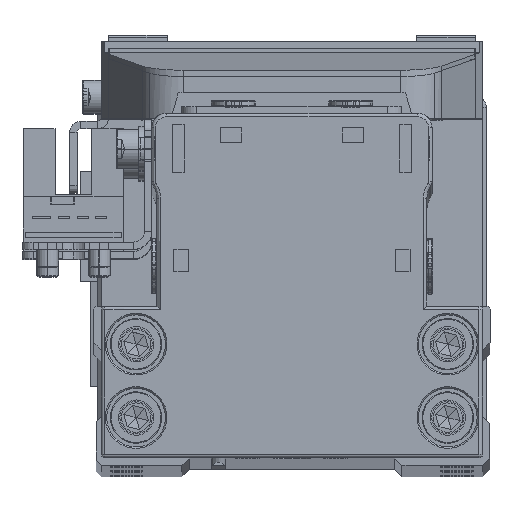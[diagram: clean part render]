
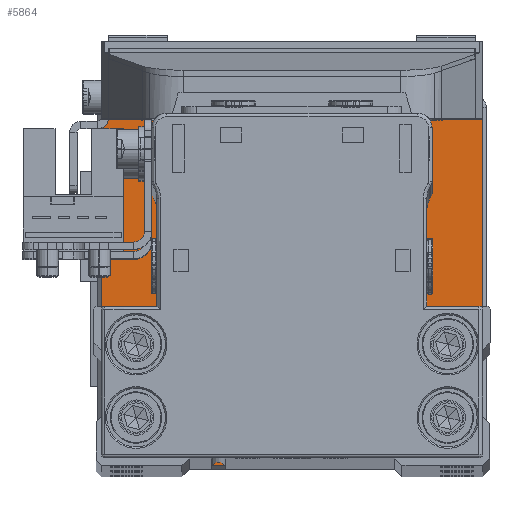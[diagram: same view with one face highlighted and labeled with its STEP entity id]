
A CAD part, top view. The second image highlights one B-rep face of the part: STEP entity #5864.
In plain terms, the highlighted planar face has unit normal (0, 0, 1).
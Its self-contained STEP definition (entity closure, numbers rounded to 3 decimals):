
#78 = AXIS2_PLACEMENT_3D ( 'NONE', #21719, #32411, #8404 ) ;
#82 = CARTESIAN_POINT ( 'NONE',  ( -21.25, 19.95, 6.5 ) ) ;
#401 = CIRCLE ( 'NONE', #19987, 1. ) ;
#978 = ORIENTED_EDGE ( 'NONE', *, *, #1540, .T. ) ;
#1282 = EDGE_CURVE ( 'NONE', #25678, #15890, #7443, .T. ) ;
#1305 = FACE_BOUND ( 'NONE', #33898, .T. ) ;
#1451 = ORIENTED_EDGE ( 'NONE', *, *, #26317, .T. ) ;
#1540 = EDGE_CURVE ( 'NONE', #3656, #32568, #28086, .T. ) ;
#2028 = CIRCLE ( 'NONE', #21606, 2.4 ) ;
#2119 = CARTESIAN_POINT ( 'NONE',  ( -26., -23.95, 6.5 ) ) ;
#2283 = VERTEX_POINT ( 'NONE', #29094 ) ;
#2568 = DIRECTION ( 'NONE',  ( 0., 0., -1. ) ) ;
#2920 = CARTESIAN_POINT ( 'NONE',  ( 21.25, 9.95, 6.5 ) ) ;
#3246 = AXIS2_PLACEMENT_3D ( 'NONE', #2920, #13617, #24302 ) ;
#3552 = DIRECTION ( 'NONE',  ( -1., 0., 0. ) ) ;
#3598 = CARTESIAN_POINT ( 'NONE',  ( 26., 23.95, 6.5 ) ) ;
#3656 = VERTEX_POINT ( 'NONE', #9953 ) ;
#3777 = ORIENTED_EDGE ( 'NONE', *, *, #7985, .T. ) ;
#3968 = CARTESIAN_POINT ( 'NONE',  ( 25., -24.95, 6.5 ) ) ;
#4097 = CARTESIAN_POINT ( 'NONE',  ( 26., -23.95, 6.5 ) ) ;
#4137 = CARTESIAN_POINT ( 'NONE',  ( -23.65, 9.95, 6.5 ) ) ;
#4293 = ORIENTED_EDGE ( 'NONE', *, *, #23822, .T. ) ;
#4394 = EDGE_CURVE ( 'NONE', #17473, #22743, #26422, .T. ) ;
#4830 = CARTESIAN_POINT ( 'NONE',  ( 25., 24.95, 6.5 ) ) ;
#5024 = VERTEX_POINT ( 'NONE', #17856 ) ;
#5180 = DIRECTION ( 'NONE',  ( 0., 0., -1. ) ) ;
#5196 = CARTESIAN_POINT ( 'NONE',  ( -25., 23.95, 6.5 ) ) ;
#5654 = CARTESIAN_POINT ( 'NONE',  ( 21.25, 19.95, 6.5 ) ) ;
#5864 = ADVANCED_FACE ( 'NONE', ( #25318, #1305, #11994, #22682, #33367 ), #9360, .T. ) ;
#5880 = CARTESIAN_POINT ( 'NONE',  ( 25., 23.95, 6.5 ) ) ;
#6159 = CIRCLE ( 'NONE', #10622, 2.4 ) ;
#6220 = CARTESIAN_POINT ( 'NONE',  ( 21.25, 9.95, 6.5 ) ) ;
#6270 = CARTESIAN_POINT ( 'NONE',  ( -25., 24.95, 6.5 ) ) ;
#6736 = DIRECTION ( 'NONE',  ( 1., 0., 0. ) ) ;
#6879 = ORIENTED_EDGE ( 'NONE', *, *, #25797, .T. ) ;
#6908 = EDGE_CURVE ( 'NONE', #2283, #29075, #6159, .T. ) ;
#6909 = EDGE_CURVE ( 'NONE', #16731, #25137, #30206, .T. ) ;
#6960 = ORIENTED_EDGE ( 'NONE', *, *, #29711, .T. ) ;
#7301 = CIRCLE ( 'NONE', #26882, 1. ) ;
#7381 = ORIENTED_EDGE ( 'NONE', *, *, #4394, .T. ) ;
#7443 = LINE ( 'NONE', #18138, #17100 ) ;
#7447 = CARTESIAN_POINT ( 'NONE',  ( -26., 23.95, 6.5 ) ) ;
#7985 = EDGE_CURVE ( 'NONE', #32568, #3656, #18335, .T. ) ;
#8184 = ORIENTED_EDGE ( 'NONE', *, *, #6909, .T. ) ;
#8381 = CARTESIAN_POINT ( 'NONE',  ( 23.65, 19.95, 6.5 ) ) ;
#8404 = DIRECTION ( 'NONE',  ( -1., 0., 0. ) ) ;
#9032 = DIRECTION ( 'NONE',  ( 1., 0., 0. ) ) ;
#9348 = DIRECTION ( 'NONE',  ( 1., 0., 0. ) ) ;
#9360 = PLANE ( 'NONE',  #31745 ) ;
#9380 = EDGE_LOOP ( 'NONE', ( #8184, #11311 ) ) ;
#9936 = ORIENTED_EDGE ( 'NONE', *, *, #34373, .T. ) ;
#9953 = CARTESIAN_POINT ( 'NONE',  ( 23.65, 9.95, 6.5 ) ) ;
#10622 = AXIS2_PLACEMENT_3D ( 'NONE', #29181, #5180, #15886 ) ;
#10708 = CIRCLE ( 'NONE', #78, 2.4 ) ;
#10765 = DIRECTION ( 'NONE',  ( 0., 0., -1. ) ) ;
#10869 = AXIS2_PLACEMENT_3D ( 'NONE', #16871, #27550, #3552 ) ;
#11311 = ORIENTED_EDGE ( 'NONE', *, *, #18955, .T. ) ;
#11322 = EDGE_LOOP ( 'NONE', ( #9936, #1451 ) ) ;
#11994 = FACE_BOUND ( 'NONE', #9380, .T. ) ;
#12134 = AXIS2_PLACEMENT_3D ( 'NONE', #5654, #16347, #27028 ) ;
#12383 = CARTESIAN_POINT ( 'NONE',  ( -25., 24.95, 6.5 ) ) ;
#12995 = AXIS2_PLACEMENT_3D ( 'NONE', #6220, #16906, #27586 ) ;
#13046 = EDGE_LOOP ( 'NONE', ( #19172, #30793, #23185, #34599, #6960, #34455, #7381, #4293 ) ) ;
#13255 = DIRECTION ( 'NONE',  ( -1., 0., 0. ) ) ;
#13617 = DIRECTION ( 'NONE',  ( 0., 0., -1. ) ) ;
#14302 = DIRECTION ( 'NONE',  ( 0., 1., 0. ) ) ;
#14667 = DIRECTION ( 'NONE',  ( 1., 0., 0. ) ) ;
#15120 = AXIS2_PLACEMENT_3D ( 'NONE', #26562, #2568, #13255 ) ;
#15886 = DIRECTION ( 'NONE',  ( -1., 0., 0. ) ) ;
#15890 = VERTEX_POINT ( 'NONE', #2119 ) ;
#15899 = DIRECTION ( 'NONE',  ( 0., 0., 1. ) ) ;
#16095 = VECTOR ( 'NONE', #16955, 1000. ) ;
#16342 = CARTESIAN_POINT ( 'NONE',  ( 26., 23.95, 6.5 ) ) ;
#16347 = DIRECTION ( 'NONE',  ( 0., 0., -1. ) ) ;
#16567 = DIRECTION ( 'NONE',  ( 0., 0., 1. ) ) ;
#16705 = EDGE_CURVE ( 'NONE', #5024, #28523, #27969, .T. ) ;
#16731 = VERTEX_POINT ( 'NONE', #4137 ) ;
#16755 = ORIENTED_EDGE ( 'NONE', *, *, #6908, .T. ) ;
#16757 = AXIS2_PLACEMENT_3D ( 'NONE', #5196, #15899, #26580 ) ;
#16871 = CARTESIAN_POINT ( 'NONE',  ( -21.25, 9.95, 6.5 ) ) ;
#16906 = DIRECTION ( 'NONE',  ( 0., 0., -1. ) ) ;
#16955 = DIRECTION ( 'NONE',  ( -1., 0., 0. ) ) ;
#17100 = VECTOR ( 'NONE', #28832, 1000. ) ;
#17171 = EDGE_CURVE ( 'NONE', #15890, #5024, #401, .T. ) ;
#17473 = VERTEX_POINT ( 'NONE', #16342 ) ;
#17856 = CARTESIAN_POINT ( 'NONE',  ( -25., -24.95, 6.5 ) ) ;
#17958 = EDGE_LOOP ( 'NONE', ( #16755, #6879 ) ) ;
#18098 = VECTOR ( 'NONE', #14667, 1000. ) ;
#18119 = VERTEX_POINT ( 'NONE', #12383 ) ;
#18138 = CARTESIAN_POINT ( 'NONE',  ( -26., -23.95, 6.5 ) ) ;
#18335 = CIRCLE ( 'NONE', #3246, 2.4 ) ;
#18955 = EDGE_CURVE ( 'NONE', #25137, #16731, #25982, .T. ) ;
#19172 = ORIENTED_EDGE ( 'NONE', *, *, #20988, .T. ) ;
#19899 = VERTEX_POINT ( 'NONE', #8381 ) ;
#19987 = AXIS2_PLACEMENT_3D ( 'NONE', #22670, #33352, #9348 ) ;
#20055 = CARTESIAN_POINT ( 'NONE',  ( 0., 0., 6.5 ) ) ;
#20988 = EDGE_CURVE ( 'NONE', #18119, #25678, #31833, .T. ) ;
#21218 = CARTESIAN_POINT ( 'NONE',  ( -18.85, 19.95, 6.5 ) ) ;
#21459 = DIRECTION ( 'NONE',  ( -1., 0., 0. ) ) ;
#21606 = AXIS2_PLACEMENT_3D ( 'NONE', #82, #10765, #21459 ) ;
#21719 = CARTESIAN_POINT ( 'NONE',  ( 21.25, 19.95, 6.5 ) ) ;
#22358 = CARTESIAN_POINT ( 'NONE',  ( 25., -23.95, 6.5 ) ) ;
#22670 = CARTESIAN_POINT ( 'NONE',  ( -25., -23.95, 6.5 ) ) ;
#22682 = FACE_BOUND ( 'NONE', #17958, .T. ) ;
#22743 = VERTEX_POINT ( 'NONE', #4830 ) ;
#23082 = VERTEX_POINT ( 'NONE', #4097 ) ;
#23185 = ORIENTED_EDGE ( 'NONE', *, *, #17171, .T. ) ;
#23822 = EDGE_CURVE ( 'NONE', #22743, #18119, #30272, .T. ) ;
#24128 = VERTEX_POINT ( 'NONE', #26555 ) ;
#24302 = DIRECTION ( 'NONE',  ( -1., 0., 0. ) ) ;
#25137 = VERTEX_POINT ( 'NONE', #25270 ) ;
#25270 = CARTESIAN_POINT ( 'NONE',  ( -18.85, 9.95, 6.5 ) ) ;
#25318 = FACE_BOUND ( 'NONE', #11322, .T. ) ;
#25678 = VERTEX_POINT ( 'NONE', #7447 ) ;
#25797 = EDGE_CURVE ( 'NONE', #29075, #2283, #2028, .T. ) ;
#25982 = CIRCLE ( 'NONE', #10869, 2.4 ) ;
#26317 = EDGE_CURVE ( 'NONE', #19899, #24128, #27242, .T. ) ;
#26422 = CIRCLE ( 'NONE', #30888, 1. ) ;
#26555 = CARTESIAN_POINT ( 'NONE',  ( 18.85, 19.95, 6.5 ) ) ;
#26562 = CARTESIAN_POINT ( 'NONE',  ( -21.25, 9.95, 6.5 ) ) ;
#26580 = DIRECTION ( 'NONE',  ( 1., 0., 0. ) ) ;
#26882 = AXIS2_PLACEMENT_3D ( 'NONE', #22358, #33043, #9032 ) ;
#27028 = DIRECTION ( 'NONE',  ( -1., 0., 0. ) ) ;
#27242 = CIRCLE ( 'NONE', #12134, 2.4 ) ;
#27250 = DIRECTION ( 'NONE',  ( 1., 0., 0. ) ) ;
#27550 = DIRECTION ( 'NONE',  ( 0., 0., -1. ) ) ;
#27586 = DIRECTION ( 'NONE',  ( -1., 0., 0. ) ) ;
#27599 = LINE ( 'NONE', #3598, #33051 ) ;
#27969 = LINE ( 'NONE', #3968, #18098 ) ;
#28086 = CIRCLE ( 'NONE', #12995, 2.4 ) ;
#28523 = VERTEX_POINT ( 'NONE', #31867 ) ;
#28832 = DIRECTION ( 'NONE',  ( 0., -1., 0. ) ) ;
#29075 = VERTEX_POINT ( 'NONE', #21218 ) ;
#29094 = CARTESIAN_POINT ( 'NONE',  ( -23.65, 19.95, 6.5 ) ) ;
#29181 = CARTESIAN_POINT ( 'NONE',  ( -21.25, 19.95, 6.5 ) ) ;
#29708 = EDGE_CURVE ( 'NONE', #23082, #17473, #27599, .T. ) ;
#29711 = EDGE_CURVE ( 'NONE', #28523, #23082, #7301, .T. ) ;
#30206 = CIRCLE ( 'NONE', #15120, 2.4 ) ;
#30272 = LINE ( 'NONE', #6270, #16095 ) ;
#30733 = DIRECTION ( 'NONE',  ( 0., 0., 1. ) ) ;
#30793 = ORIENTED_EDGE ( 'NONE', *, *, #1282, .T. ) ;
#30888 = AXIS2_PLACEMENT_3D ( 'NONE', #5880, #16567, #27250 ) ;
#31745 = AXIS2_PLACEMENT_3D ( 'NONE', #20055, #30733, #6736 ) ;
#31833 = CIRCLE ( 'NONE', #16757, 1. ) ;
#31867 = CARTESIAN_POINT ( 'NONE',  ( 25., -24.95, 6.5 ) ) ;
#32411 = DIRECTION ( 'NONE',  ( 0., 0., -1. ) ) ;
#32568 = VERTEX_POINT ( 'NONE', #34277 ) ;
#33043 = DIRECTION ( 'NONE',  ( 0., 0., 1. ) ) ;
#33051 = VECTOR ( 'NONE', #14302, 1000. ) ;
#33352 = DIRECTION ( 'NONE',  ( 0., 0., 1. ) ) ;
#33367 = FACE_OUTER_BOUND ( 'NONE', #13046, .T. ) ;
#33898 = EDGE_LOOP ( 'NONE', ( #3777, #978 ) ) ;
#34277 = CARTESIAN_POINT ( 'NONE',  ( 18.85, 9.95, 6.5 ) ) ;
#34373 = EDGE_CURVE ( 'NONE', #24128, #19899, #10708, .T. ) ;
#34455 = ORIENTED_EDGE ( 'NONE', *, *, #29708, .T. ) ;
#34599 = ORIENTED_EDGE ( 'NONE', *, *, #16705, .T. ) ;
